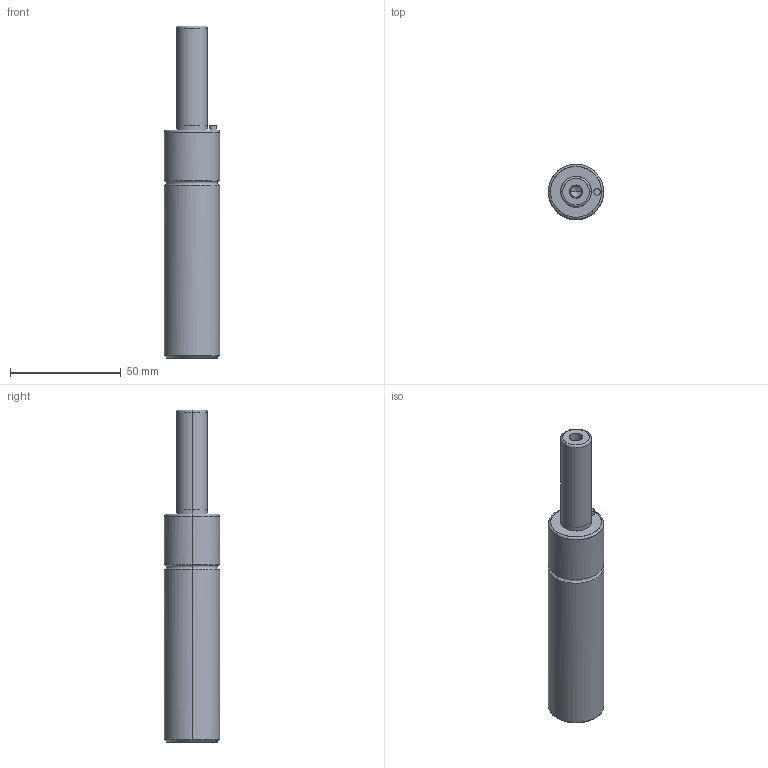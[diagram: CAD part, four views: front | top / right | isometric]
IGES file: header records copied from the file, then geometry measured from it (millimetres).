
Global section: file name: E:\UnigraphicsGraphicData\MISUMI_PRESS-PARTS\IGES\3d_gsm25-45_03915_r00.igs; native system: NX V5.0; preprocessor: UGS NX IGES V5.0; author: MISUMI; date: 20110105.160807; units: millimetre
Bounding box: 25 x 24.99 x 150 mm (x, y, z)
Surface area: 11500.8 mm2 (no closed solid volume)
Topology: 0 solids, 0 shells, 36 faces, 216 edges, 212 vertices
Faces by surface type: bspline 36
